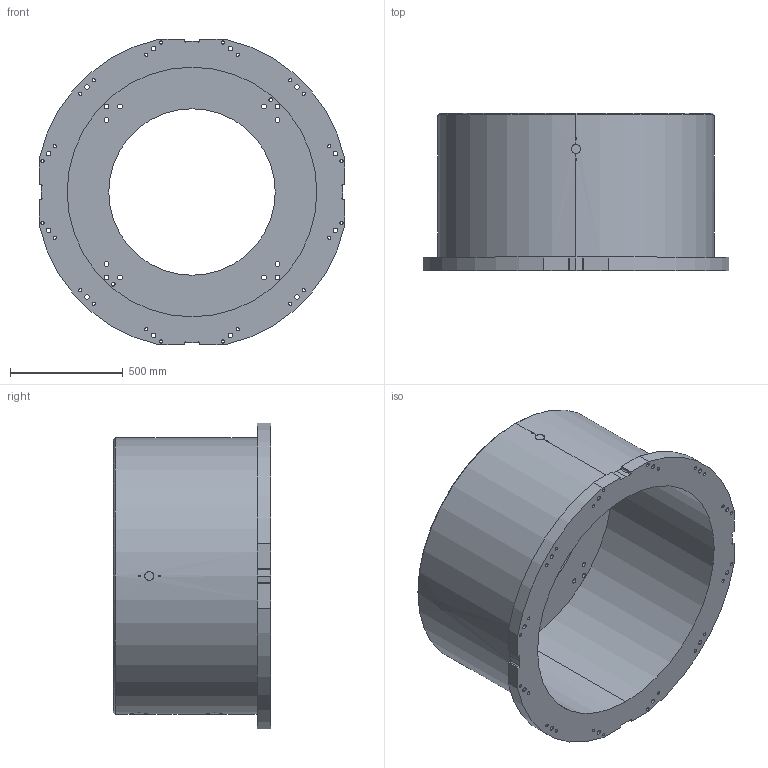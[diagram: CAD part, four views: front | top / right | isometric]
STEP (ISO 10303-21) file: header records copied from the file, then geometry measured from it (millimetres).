
FILE_DESCRIPTION (( 'STEP AP214' ), '1' );
FILE_NAME ('T-700.STEP', '2024-01-24T12:27:05', ( '' ), ( '' ), 'SwSTEP 2.0', 'SolidWorks 2022', '' );
FILE_SCHEMA (( 'AUTOMOTIVE_DESIGN' ));
Length unit declared in the file: millimetre
Products named in the file (1): T-700
Bounding box: 1360 x 700 x 1360 mm (x, y, z)
Volume: 202488904.9 mm3; surface area: 7379572.3 mm2
Topology: 1 solids, 1 shells, 235 faces, 661 edges, 440 vertices
Faces by surface type: cylinder 181, plane 28, bspline 24, cone 2
Entity records: 13615 total; most frequent: CARTESIAN_POINT 6304, ORIENTED_EDGE 1322, DIRECTION 1177, EDGE_CURVE 661, AXIS2_PLACEMENT_3D 466, VERTEX_POINT 440, EDGE_LOOP 349, CIRCLE 254
